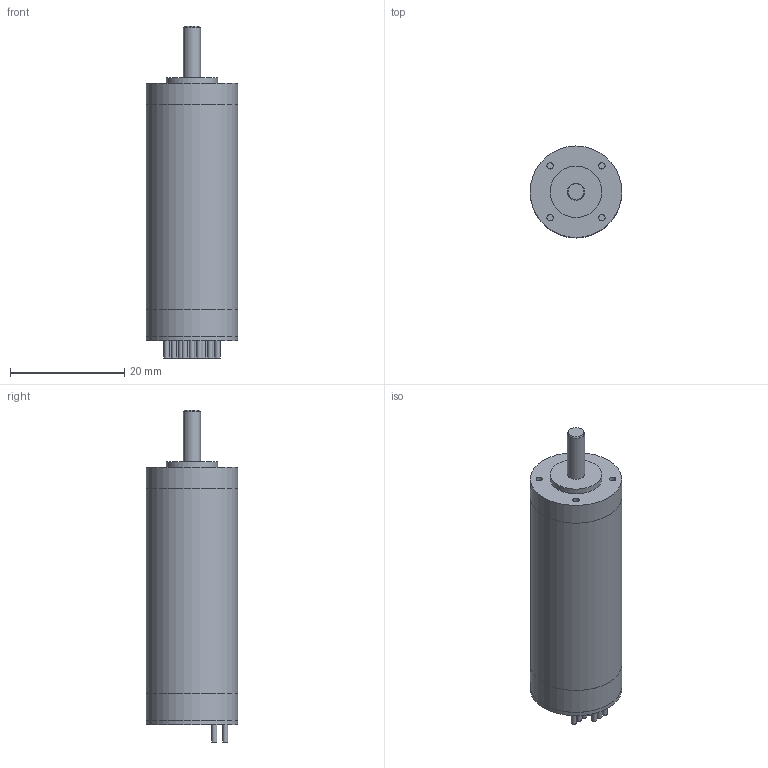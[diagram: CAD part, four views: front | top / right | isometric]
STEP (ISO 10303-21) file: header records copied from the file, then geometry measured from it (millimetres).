
FILE_DESCRIPTION(/* description */ (''),/* implementation_level */ '2;1');
FILE_NAME(/* name */ '1645S_BHS.stp',/* time_stamp */ '2018-08-15T10:35:35+02:00',/* author */ ('DR. FRITZ FAULHABER GmbH & Co. KG'),/* organization */ ('DR. FRITZ FAULHABER GmbH & Co. KG'),/* preprocessor_version */ 'ST-DEVELOPER v16.7',/* originating_system */ 'SIEMENS PLM Software NX 12.0',/* authorisation */ '');
FILE_SCHEMA (('AUTOMOTIVE_DESIGN { 1 0 10303 214 3 1 1 1 }'));
Length unit declared in the file: millimetre
Products named in the file (1): Alle_Motoren
Bounding box: 16 x 16 x 58 mm (x, y, z)
Volume: 9187 mm3; surface area: 2920.2 mm2
Topology: 1 solids, 1 shells, 63 faces, 135 edges, 90 vertices
Faces by surface type: plane 32, cylinder 30, cone 1
Full cylindrical faces by diameter (mm): 0.9 x3, 1.1 x4, 3 x1, 9 x1, 15.999 x3, 16 x4
Entity records: 1660 total; most frequent: DIRECTION 306, CARTESIAN_POINT 270, ORIENTED_EDGE 234, AXIS2_PLACEMENT_3D 125, EDGE_CURVE 117, EDGE_LOOP 96, VERTEX_POINT 89, ADVANCED_FACE 63
